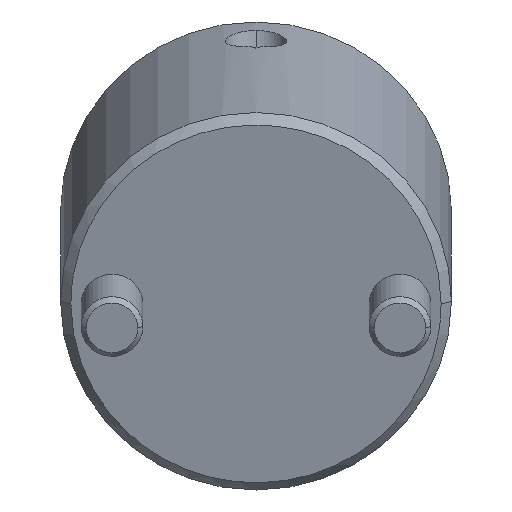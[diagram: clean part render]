
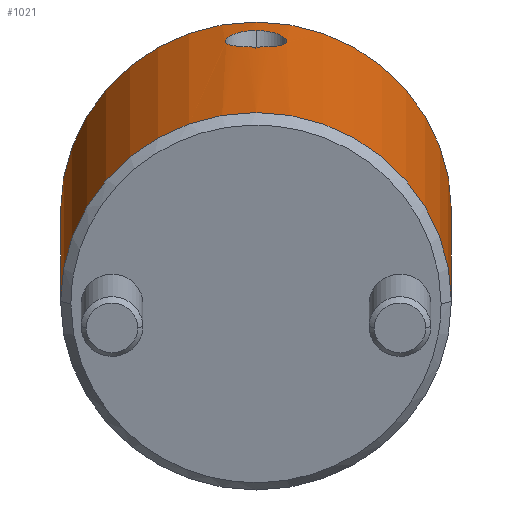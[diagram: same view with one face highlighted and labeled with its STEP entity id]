
A CAD part, front view. The second image highlights one B-rep face of the part: STEP entity #1021.
In plain terms, the highlighted cylindrical face has radius 19 mm (diameter 38 mm), a partial arc.
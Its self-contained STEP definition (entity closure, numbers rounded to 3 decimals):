
#760=CARTESIAN_POINT('Vertex',(0.,19.,1.)) ;
#763=CARTESIAN_POINT('Axis2P3D Location',(0.,0.,1.)) ;
#767=CARTESIAN_POINT('Vertex',(0.,-19.,1.)) ;
#919=CARTESIAN_POINT('Axis2P3D Location',(0.,0.,-1.8)) ;
#924=CARTESIAN_POINT('Line Origine',(0.,19.,-1.8)) ;
#928=CARTESIAN_POINT('Vertex',(0.,19.,35.)) ;
#931=CARTESIAN_POINT('Axis2P3D Location',(0.,0.,35.)) ;
#935=CARTESIAN_POINT('Vertex',(0.,-19.,35.)) ;
#938=CARTESIAN_POINT('Line Origine',(0.,-19.,-1.8)) ;
#950=CARTESIAN_POINT('Control Point',(19.,0.,31.81)) ;
#951=CARTESIAN_POINT('Control Point',(19.,0.081,31.81)) ;
#952=CARTESIAN_POINT('Control Point',(19.,0.161,31.807)) ;
#953=CARTESIAN_POINT('Control Point',(18.999,0.242,31.801)) ;
#954=CARTESIAN_POINT('Control Point',(18.995,0.484,31.775)) ;
#955=CARTESIAN_POINT('Control Point',(18.987,0.724,31.722)) ;
#956=CARTESIAN_POINT('Control Point',(18.98,0.886,31.673)) ;
#957=CARTESIAN_POINT('Control Point',(18.964,1.197,31.555)) ;
#958=CARTESIAN_POINT('Control Point',(18.943,1.487,31.395)) ;
#959=CARTESIAN_POINT('Control Point',(18.931,1.628,31.302)) ;
#960=CARTESIAN_POINT('Control Point',(18.9,1.968,31.046)) ;
#961=CARTESIAN_POINT('Control Point',(18.866,2.263,30.733)) ;
#962=CARTESIAN_POINT('Control Point',(18.846,2.422,30.523)) ;
#963=CARTESIAN_POINT('Control Point',(18.808,2.698,30.073)) ;
#964=CARTESIAN_POINT('Control Point',(18.781,2.88,29.574)) ;
#965=CARTESIAN_POINT('Control Point',(18.77,2.946,29.312)) ;
#966=CARTESIAN_POINT('Control Point',(18.76,3.011,28.876)) ;
#967=CARTESIAN_POINT('Control Point',(18.762,3.001,28.44)) ;
#968=CARTESIAN_POINT('Control Point',(18.764,2.985,28.267)) ;
#969=CARTESIAN_POINT('Control Point',(18.775,2.917,27.841)) ;
#970=CARTESIAN_POINT('Control Point',(18.796,2.779,27.436)) ;
#971=CARTESIAN_POINT('Control Point',(18.812,2.67,27.204)) ;
#972=CARTESIAN_POINT('Control Point',(18.854,2.364,26.692)) ;
#973=CARTESIAN_POINT('Control Point',(18.903,1.944,26.275)) ;
#974=CARTESIAN_POINT('Control Point',(18.93,1.671,26.07)) ;
#975=CARTESIAN_POINT('Control Point',(18.968,1.183,25.804)) ;
#976=CARTESIAN_POINT('Control Point',(18.991,0.644,25.656)) ;
#977=CARTESIAN_POINT('Control Point',(18.997,0.43,25.617)) ;
#978=CARTESIAN_POINT('Control Point',(19.,0.216,25.598)) ;
#979=CARTESIAN_POINT('Control Point',(19.,0.,25.598)) ;
#980=CARTESIAN_POINT('Vertex',(19.,0.,31.81)) ;
#982=CARTESIAN_POINT('Vertex',(19.,0.,25.598)) ;
#986=CARTESIAN_POINT('Control Point',(19.,0.,25.598)) ;
#987=CARTESIAN_POINT('Control Point',(19.,-0.084,25.598)) ;
#988=CARTESIAN_POINT('Control Point',(19.,-0.168,25.601)) ;
#989=CARTESIAN_POINT('Control Point',(18.999,-0.251,25.607)) ;
#990=CARTESIAN_POINT('Control Point',(18.994,-0.501,25.633)) ;
#991=CARTESIAN_POINT('Control Point',(18.986,-0.748,25.686)) ;
#992=CARTESIAN_POINT('Control Point',(18.979,-0.914,25.733)) ;
#993=CARTESIAN_POINT('Control Point',(18.962,-1.232,25.849)) ;
#994=CARTESIAN_POINT('Control Point',(18.939,-1.529,26.007)) ;
#995=CARTESIAN_POINT('Control Point',(18.927,-1.672,26.097)) ;
#996=CARTESIAN_POINT('Control Point',(18.895,-2.012,26.346)) ;
#997=CARTESIAN_POINT('Control Point',(18.861,-2.304,26.651)) ;
#998=CARTESIAN_POINT('Control Point',(18.841,-2.458,26.853)) ;
#999=CARTESIAN_POINT('Control Point',(18.804,-2.725,27.289)) ;
#1000=CARTESIAN_POINT('Control Point',(18.778,-2.896,27.771)) ;
#1001=CARTESIAN_POINT('Control Point',(18.769,-2.956,28.026)) ;
#1002=CARTESIAN_POINT('Control Point',(18.758,-3.025,28.544)) ;
#1003=CARTESIAN_POINT('Control Point',(18.764,-2.988,29.068)) ;
#1004=CARTESIAN_POINT('Control Point',(18.771,-2.942,29.332)) ;
#1005=CARTESIAN_POINT('Control Point',(18.79,-2.822,29.759)) ;
#1006=CARTESIAN_POINT('Control Point',(18.817,-2.634,30.157)) ;
#1007=CARTESIAN_POINT('Control Point',(18.829,-2.547,30.312)) ;
#1008=CARTESIAN_POINT('Control Point',(18.86,-2.309,30.68)) ;
#1009=CARTESIAN_POINT('Control Point',(18.894,-2.017,30.997)) ;
#1010=CARTESIAN_POINT('Control Point',(18.914,-1.822,31.168)) ;
#1011=CARTESIAN_POINT('Control Point',(18.954,-1.376,31.487)) ;
#1012=CARTESIAN_POINT('Control Point',(18.983,-0.869,31.695)) ;
#1013=CARTESIAN_POINT('Control Point',(18.994,-0.578,31.773)) ;
#1014=CARTESIAN_POINT('Control Point',(19.,-0.291,31.81)) ;
#1015=CARTESIAN_POINT('Control Point',(19.,0.,31.81)) ;
#764=DIRECTION('Axis2P3D Direction',(0.,0.,1.)) ;
#920=DIRECTION('Axis2P3D Direction',(0.,-0.,1.)) ;
#921=DIRECTION('Axis2P3D XDirection',(0.,-1.,0.)) ;
#925=DIRECTION('Vector Direction',(0.,0.,1.)) ;
#932=DIRECTION('Axis2P3D Direction',(0.,-0.,1.)) ;
#939=DIRECTION('Vector Direction',(0.,0.,1.)) ;
#765=AXIS2_PLACEMENT_3D('Circle Axis2P3D',#763,#764,$) ;
#922=AXIS2_PLACEMENT_3D('Cylinder Axis2P3D',#919,#920,#921) ;
#933=AXIS2_PLACEMENT_3D('Circle Axis2P3D',#931,#932,$) ;
#944=ORIENTED_EDGE('',*,*,#930,.F.) ;
#945=ORIENTED_EDGE('',*,*,#937,.T.) ;
#946=ORIENTED_EDGE('',*,*,#942,.T.) ;
#947=ORIENTED_EDGE('',*,*,#769,.F.) ;
#1018=ORIENTED_EDGE('',*,*,#984,.T.) ;
#1019=ORIENTED_EDGE('',*,*,#1016,.T.) ;
#1020=FACE_BOUND('',#1017,.T.) ;
#926=VECTOR('Line Direction',#925,1.) ;
#940=VECTOR('Line Direction',#939,1.) ;
#1021=ADVANCED_FACE('MANIFOLD_SOLID_BREP #1116',(#948,#1020),#923,.T.) ;
#949=B_SPLINE_CURVE_WITH_KNOTS('',5,(#950,#951,#952,#953,#954,#955,#956,#957,#958,#959,#960,#961,#962,#963,#964,#965,#966,#967,#968,#969,#970,#971,#972,#973,#974,#975,#976,#977,#978,#979),.UNSPECIFIED.,.F.,.U.,(6,3,3,3,3,3,3,3,3,6),(0.,0.582,1.76,2.967,4.812,6.638,7.845,9.65,12.048,13.588),.UNSPECIFIED.) ;
#985=B_SPLINE_CURVE_WITH_KNOTS('',5,(#986,#987,#988,#989,#990,#991,#992,#993,#994,#995,#996,#997,#998,#999,#1000,#1001,#1002,#1003,#1004,#1005,#1006,#1007,#1008,#1009,#1010,#1011,#1012,#1013,#1014,#1015),.UNSPECIFIED.,.F.,.U.,(6,3,3,3,3,3,3,3,3,6),(0.,0.601,1.805,3.01,4.817,6.623,8.448,9.673,11.498,13.589),.UNSPECIFIED.) ;
#766=CIRCLE('generated circle',#765,19.) ;
#934=CIRCLE('generated circle',#933,19.) ;
#923=CYLINDRICAL_SURFACE('generated cylinder',#922,19.) ;
#769=EDGE_CURVE('',#761,#768,#766,.F.) ;
#930=EDGE_CURVE('',#929,#761,#927,.F.) ;
#937=EDGE_CURVE('',#929,#936,#934,.F.) ;
#942=EDGE_CURVE('',#936,#768,#941,.F.) ;
#984=EDGE_CURVE('',#981,#983,#949,.T.) ;
#1016=EDGE_CURVE('',#983,#981,#985,.T.) ;
#943=EDGE_LOOP('',(#944,#945,#946,#947)) ;
#1017=EDGE_LOOP('',(#1018,#1019)) ;
#948=FACE_OUTER_BOUND('',#943,.T.) ;
#927=LINE('Line',#924,#926) ;
#941=LINE('Line',#938,#940) ;
#761=VERTEX_POINT('',#760) ;
#768=VERTEX_POINT('',#767) ;
#929=VERTEX_POINT('',#928) ;
#936=VERTEX_POINT('',#935) ;
#981=VERTEX_POINT('',#980) ;
#983=VERTEX_POINT('',#982) ;
